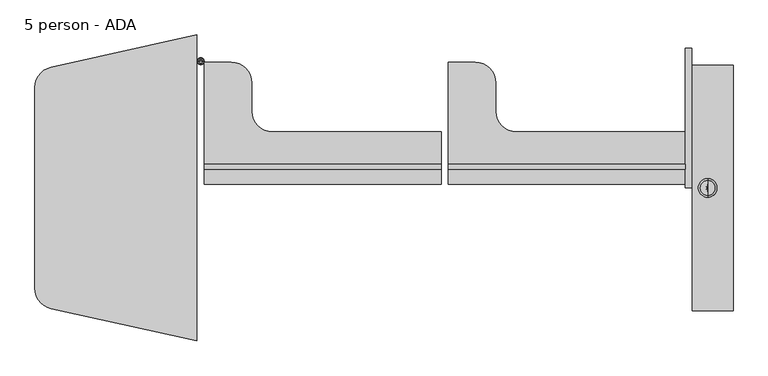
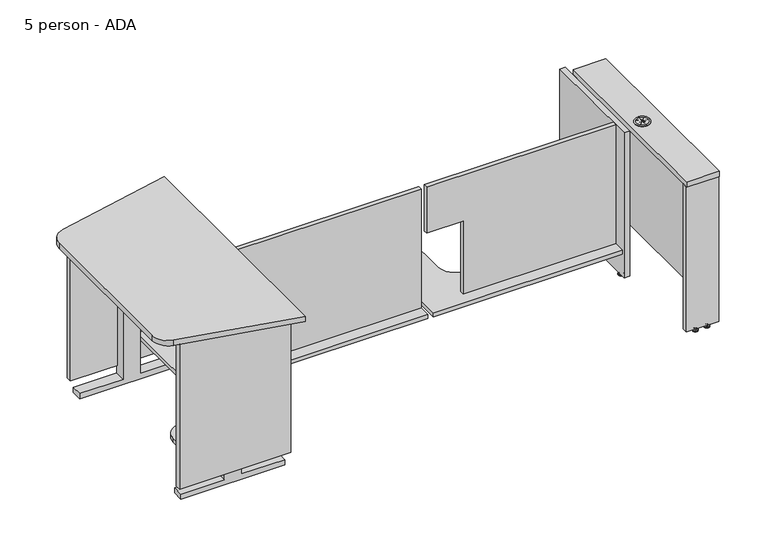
"""IFC4 building model written with IfcOpenShell, lengths in millimetres: furniture geometry, Nova Solutions - Collaboration Table - Keystone_4-5 person : 5 person - ADA."""

from ifc_helpers import new_model, si_unit, point, frame, frame_2d, origin, place, context, project, spatial, polyline, circle_curve, ellipse_curve, trimmed, segment, composite_curve, outline, extrude, source, transform, mapped, element, save
from ifc_brep_helpers import plane_surface, cylinder_surface, revolved_surface, advanced_brep


def furniture_5_person_ada_cc60ec20(model_context):
    return source(origin(), model_context, "Body", "SolidModel", [
        extrude(outline(polyline([(0.0, -947.038), (25.4, -947.038), (25.4, -1150.988), (671.5176566, -1150.988), (671.5176566, -1230.988), (25.4, -1230.988), (25.4, -1434.938), (0.0, -1434.938), (0.0, -947.038)])), frame((0.0, 385.9, 0.0), z_axis=(0.0, 1.0, 0.0), x_axis=(0.0, 0.0, 1.0)), (0.0, 0.0, 1.0), 50.8),
        extrude(outline(polyline([(0.0, -947.038), (25.4, -947.038), (25.4, -1150.988), (671.5176566, -1150.988), (671.5176566, -1230.988), (25.4, -1230.988), (25.4, -1434.938), (0.0, -1434.938), (0.0, -947.038)])), frame((0.0, -436.7, 0.0), z_axis=(0.0, 1.0, 0.0), x_axis=(0.0, 0.0, 1.0)), (0.0, 0.0, 1.0), 50.8),
        extrude(outline(polyline([(430.1, 787.1), (430.1, 196.3), (-259.1, 196.3), (-259.1, 558.2), (-430.1, 558.2), (-430.1, 787.1), (430.1, 787.1)])), frame((-1017.188, 0.0, 0.0), z_axis=(1.0, 0.0, 0.0), x_axis=(0.0, 1.0, 0.0)), (0.0, 0.0, 1.0), 19.2),
        extrude(outline(composite_curve([segment(polyline([(-942.688, 430.1), (-942.688, -430.1), (-1385.8505, -430.1), (-1385.8505, -290.3)]), True, "CONTINUOUS"), segment(trimmed(circle_curve(frame_2d((-1309.6505, -290.3)), 76.2), [point((-1385.8505, -290.3))], [point((-1309.6505, -214.1))], False, "CARTESIAN"), True, "CONTINUOUS"), segment(polyline([(-1309.6505, -214.1), (-1215.188, -214.1)]), True, "CONTINUOUS"), segment(trimmed(circle_curve(frame_2d((-1215.188, -137.9)), 76.2), [point((-1215.188, -214.1))], [point((-1138.988, -137.9))], True, "CARTESIAN"), True, "CONTINUOUS"), segment(polyline([(-1138.988, -137.9), (-1138.988, 430.1), (-942.688, 430.1)]), True, "CONTINUOUS")], self_intersect=False)), frame((0.0, 0.0, 177.1), z_axis=(0.0, 0.0, 1.0), x_axis=(1.0, 0.0, 0.0)), (0.0, 0.0, 1.0), 19.2),
        extrude(outline(polyline([(-929.988, 455.8), (-929.988, 430.1), (-1451.988, 430.1), (-1451.988, 455.8), (-929.988, 455.8)])), frame((0.0, 0.0, 66.4), z_axis=(0.0, 0.0, 1.0), x_axis=(1.0, 0.0, 0.0)), (0.0, 0.0, 1.0), 720.7),
        extrude(outline(polyline([(-929.988, -455.8), (-1451.988, -455.8), (-1451.988, -430.1), (-929.988, -430.1), (-929.988, -455.8)])), frame((0.0, 0.0, 66.4), z_axis=(0.0, 0.0, 1.0), x_axis=(1.0, 0.0, 0.0)), (0.0, 0.0, 1.0), 720.7),
        extrude(outline(composite_curve([segment(polyline([(-929.988, 572.7129765), (-929.988, -572.687814), (-1476.0905031, -451.5115625)]), True, "CONTINUOUS"), segment(trimmed(circle_curve(frame_2d((-1459.4104516, -376.3399197)), 77.0), [point((-1476.0905031, -451.5115625))], [point((-1536.4104516, -376.3415173))], False, "CARTESIAN"), True, "CONTINUOUS"), segment(polyline([(-1536.4104516, -376.3415173), (-1536.4260684, 376.3600213)]), True, "CONTINUOUS"), segment(trimmed(circle_curve(frame_2d((-1459.4260685, 376.3616189)), 77.0), [point((-1536.4260684, 376.3600213))], [point((-1476.1061197, 451.5332617))], False, "CARTESIAN"), True, "CONTINUOUS"), segment(polyline([(-1476.1061197, 451.5332617), (-929.988, 572.7129765)]), True, "CONTINUOUS")], self_intersect=False)), frame((0.0, 0.0, 787.1), z_axis=(0.0, 0.0, 1.0), x_axis=(1.0, 0.0, 0.0)), (0.0, 0.0, 1.0), 25.7),
        advanced_brep(
        [(981.65, -34.925, 762.0), (981.65, 34.925, 762.0), (981.65, 24.6435157, 762.0), (980.503542, 2.7677944, 762.0), (964.2244029, 17.4255971, 762.0), (978.8822056, 1.146458, 762.0), (957.0064843, 0.0, 762.0), (978.8822056, -1.146458, 762.0), (964.2244029, -17.4255971, 762.0), (980.503542, -2.7677944, 762.0), (981.65, -24.6435157, 762.0), (982.796458, -2.7677944, 762.0), (999.0755971, -17.4255971, 762.0), (984.4177944, -1.146458, 762.0), (1006.2935157, 0.0, 762.0), (984.4177944, 1.146458, 762.0), (999.0755971, 17.4255971, 762.0), (982.796458, 2.7677944, 762.0), (981.65, -34.925, 763.3787817), (981.65, 34.925, 763.3787817), (981.65, -28.7119174, 765.175), (981.65, 28.7119174, 765.175), (981.65, -24.6435157, 765.175), (980.503542, -2.7677944, 765.175), (964.2244029, -17.4255971, 765.175), (978.8822056, -1.146458, 765.175), (957.0064843, 0.0, 765.175), (978.8822056, 1.146458, 765.175), (964.2244029, 17.4255971, 765.175), (980.503542, 2.7677944, 765.175), (981.65, 24.6435157, 765.175), (982.796458, 2.7677944, 765.175), (999.0755971, 17.4255971, 765.175), (984.4177944, 1.146458, 765.175), (1006.2935157, 0.0, 765.175), (984.4177944, -1.146458, 765.175), (999.0755971, -17.4255971, 765.175), (982.796458, -2.7677944, 765.175)],
        [
            (0, 1, circle_curve(frame((981.65, 0.0, 762.0), z_axis=(0.0, 0.0, -1.0), x_axis=(0.0, 1.0, 0.0)), 34.925)),
            (1, 2),
            (2, 3),
            (3, 4),
            (4, 5),
            (5, 6),
            (6, 7),
            (7, 8),
            (8, 9),
            (9, 10),
            (10, 0),
            (1, 0, circle_curve(frame((981.65, 0.0, 762.0), z_axis=(0.0, 0.0, -1.0), x_axis=(0.0, 1.0, 0.0)), 34.925)),
            (10, 11),
            (11, 12),
            (12, 13),
            (13, 14),
            (14, 15),
            (15, 16),
            (16, 17),
            (17, 2),
            (0, 18),
            (18, 19, circle_curve(frame((981.65, 0.0, 763.3787817), z_axis=(0.0, 0.0, -1.0), x_axis=(0.0, 1.0, 0.0)), 34.925)),
            (19, 1),
            (19, 18, circle_curve(frame((981.65, 0.0, 763.3787817), z_axis=(0.0, 0.0, -1.0), x_axis=(0.0, 1.0, 0.0)), 34.925)),
            (18, 20, circle_curve(frame((981.65, -31.558813, 763.3787817), z_axis=(-1.0, 0.0, 0.0), x_axis=(0.0, -1.0, 0.0)), 3.366187)),
            (20, 21, circle_curve(frame((981.65, 0.0, 765.175), z_axis=(0.0, 0.0, -1.0), x_axis=(0.0, 1.0, 0.0)), 28.7119174)),
            (21, 19, circle_curve(frame((981.65, 31.558813, 763.3787817), z_axis=(-1.0, 0.0, 0.0), x_axis=(0.0, 1.0, 0.0)), 3.366187)),
            (21, 20, circle_curve(frame((981.65, 0.0, 765.175), z_axis=(0.0, 0.0, -1.0), x_axis=(0.0, 1.0, 0.0)), 28.7119174)),
            (20, 22),
            (22, 23),
            (23, 24),
            (24, 25),
            (25, 26),
            (26, 27),
            (27, 28),
            (28, 29),
            (29, 30),
            (30, 21),
            (30, 31),
            (31, 32),
            (32, 33),
            (33, 34),
            (34, 35),
            (35, 36),
            (36, 37),
            (37, 22),
            (26, 6),
            (5, 27),
            (25, 7),
            (24, 8),
            (23, 9),
            (22, 10),
            (37, 11),
            (36, 12),
            (35, 13),
            (34, 14),
            (33, 15),
            (32, 16),
            (31, 17),
            (30, 2),
            (29, 3),
            (28, 4),
        ],
        [
            plane_surface(frame((981.65, 0.0, 762.0), z_axis=(0.0, 0.0, -1.0), x_axis=(0.0, 1.0, 0.0))),
            cylinder_surface(frame((981.65, 0.0, 850.9), z_axis=(0.0, 0.0, 1.0), x_axis=(0.0, 1.0, 0.0)), 34.925),
            revolved_surface(trimmed(ellipse_curve(frame((981.65, 31.558813, 763.3787817), z_axis=(1.0, 0.0, 0.0), x_axis=(0.0, 1.0, 0.0)), 3.366187, 3.366187), [point((981.65, 34.925, 763.3787817))], [point((981.65, 28.7119174, 765.175))], True, "CARTESIAN"), (981.65, 0.0, 850.9), (0.0, 0.0, 1.0)),
            plane_surface(frame((981.65, 0.0, 765.175), z_axis=(0.0, 0.0, 1.0), x_axis=(0.0, 1.0, 0.0))),
            plane_surface(frame((981.65, 1.2915119, 787.4), z_axis=(0.05233595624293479, -0.9986295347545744, 0.0), x_axis=(0.0, 0.0, -1.0))),
            plane_surface(frame((957.0064843, 0.0, 787.4), z_axis=(0.052335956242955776, 0.9986295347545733, 0.0), x_axis=(0.0, 0.0, -1.0))),
            plane_surface(frame((980.7367632, 0.9132368, 787.4), z_axis=(0.7431448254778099, -0.6691306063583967, 0.0), x_axis=(0.0, 0.0, -1.0))),
            plane_surface(frame((964.2244029, -17.4255971, 787.4), z_axis=(-0.6691306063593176, 0.7431448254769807, 0.0), x_axis=(0.0, 0.0, -1.0))),
            plane_surface(frame((980.3584881, 0.0, 787.4), z_axis=(0.9986295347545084, 0.05233595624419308, 0.0), x_axis=(0.0, 0.0, -1.0))),
            plane_surface(frame((981.65, -24.6435157, 787.4), z_axis=(-0.9986295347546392, 0.05233595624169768, 0.0), x_axis=(0.0, 0.0, -1.0))),
            plane_surface(frame((980.7367632, -0.9132368, 787.4), z_axis=(0.6691306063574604, 0.743144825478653, 0.0), x_axis=(0.0, 0.0, -1.0))),
            plane_surface(frame((999.0755971, -17.4255971, 787.4), z_axis=(-0.7431448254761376, -0.669130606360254, 0.0), x_axis=(0.0, 0.0, -1.0))),
            plane_surface(frame((981.65, -1.2915119, 787.4), z_axis=(-0.052335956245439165, 0.9986295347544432, 0.0), x_axis=(0.0, 0.0, -1.0))),
            plane_surface(frame((1006.2935157, 0.0, 787.4), z_axis=(-0.05233595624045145, -0.9986295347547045, 0.0), x_axis=(0.0, 0.0, -1.0))),
            plane_surface(frame((982.5632368, -0.9132368, 787.4), z_axis=(-0.7431448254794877, 0.6691306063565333, 0.0), x_axis=(0.0, 0.0, -1.0))),
            plane_surface(frame((999.0755971, 17.4255971, 787.4), z_axis=(0.669130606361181, -0.7431448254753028, 0.0), x_axis=(0.0, 0.0, -1.0))),
            plane_surface(frame((982.9415119, 0.0, 787.4), z_axis=(-0.9986295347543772, -0.05233595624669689, 0.0), x_axis=(0.0, 0.0, -1.0))),
            plane_surface(frame((981.65, 24.6435157, 787.4), z_axis=(0.9986295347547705, -0.05233595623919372, 0.0), x_axis=(0.0, 0.0, -1.0))),
            plane_surface(frame((982.5632368, 0.9132368, 787.4), z_axis=(-0.6691306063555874, -0.7431448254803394, 0.0), x_axis=(0.0, 0.0, -1.0))),
            plane_surface(frame((964.2244029, 17.4255971, 787.4), z_axis=(0.743144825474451, 0.669130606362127, 0.0), x_axis=(0.0, 0.0, -1.0))),
        ],
        [
            (0, [[1, 2, 3, 4, 5, 6, 7, 8, 9, 10, 11]]),
            (0, [[12, -11, 13, 14, 15, 16, 17, 18, 19, 20, -2]]),
            (1, [[-1, 21, 22, 23]]),
            (1, [[-12, -23, 24, -21]]),
            (2, [[-22, 25, 26, 27]]),
            (2, [[-24, -27, 28, -25]]),
            (3, [[-26, 29, 30, 31, 32, 33, 34, 35, 36, 37, 38]]),
            (3, [[-28, -38, 39, 40, 41, 42, 43, 44, 45, 46, -29]]),
            (4, [[47, -6, 48, -34]]),
            (5, [[-47, -33, 49, -7]]),
            (6, [[50, -8, -49, -32]]),
            (7, [[-50, -31, 51, -9]]),
            (8, [[52, -10, -51, -30]]),
            (9, [[-52, -46, 53, -13]]),
            (10, [[54, -14, -53, -45]]),
            (11, [[-54, -44, 55, -15]]),
            (12, [[56, -16, -55, -43]]),
            (13, [[-56, -42, 57, -17]]),
            (14, [[58, -18, -57, -41]]),
            (15, [[-58, -40, 59, -19]]),
            (16, [[60, -20, -59, -39]]),
            (17, [[-60, -37, 61, -3]]),
            (18, [[62, -4, -61, -36]]),
            (19, [[-62, -35, -48, -5]]),
        ],
    ),
        advanced_brep(
        [(1027.6359375, 451.0276506, 11.1125), (1027.6359375, 437.6723494, 11.1125), (1027.6359375, 444.35, 11.1125), (1027.6359375, 451.0276506, 9.525), (1027.6359375, 437.6723494, 9.525), (1027.6359375, 456.2355135, 4.7748687), (1027.6359375, 432.4644865, 4.7748687), (1027.6359375, 457.0966506, 3.989419), (1027.6359375, 431.6033494, 3.989419), (1027.6359375, 457.0966506, 3.175), (1027.6359375, 431.6033494, 3.175), (1027.6359375, 456.2459119, 0.0), (1027.6359375, 432.4540881, 0.0), (1027.6359375, 444.35, 0.0)],
        [
            (0, 1, circle_curve(frame((1027.6359375, 444.35, 11.1125), z_axis=(0.0, 0.0, 1.0), x_axis=(0.0, -1.0, 0.0)), 6.6776506)),
            (1, 2),
            (2, 0),
            (1, 0, circle_curve(frame((1027.6359375, 444.35, 11.1125), z_axis=(0.0, 0.0, 1.0), x_axis=(0.0, -1.0, 0.0)), 6.6776506)),
            (3, 4, circle_curve(frame((1027.6359375, 444.35, 9.525), z_axis=(0.0, 0.0, 1.0), x_axis=(0.0, -1.0, 0.0)), 6.6776506)),
            (4, 1),
            (0, 3),
            (4, 3, circle_curve(frame((1027.6359375, 444.35, 9.525), z_axis=(0.0, 0.0, 1.0), x_axis=(0.0, -1.0, 0.0)), 6.6776506)),
            (5, 6, circle_curve(frame((1027.6359375, 444.35, 4.7748687), z_axis=(0.0, 0.0, 1.0), x_axis=(0.0, -1.0, 0.0)), 11.8855135)),
            (6, 4, circle_curve(frame((1027.6359375, 431.4179373, 11.1521822), z_axis=(1.0, 0.0, 0.0), x_axis=(0.0, 1.0, 0.0)), 6.462615)),
            (3, 5, circle_curve(frame((1027.6359375, 457.2820627, 11.1521822), z_axis=(1.0, 0.0, 0.0), x_axis=(0.0, -1.0, 0.0)), 6.462615)),
            (6, 5, circle_curve(frame((1027.6359375, 444.35, 4.7748687), z_axis=(0.0, 0.0, 1.0), x_axis=(0.0, -1.0, 0.0)), 11.8855135)),
            (7, 8, circle_curve(frame((1027.6359375, 444.35, 3.989419), z_axis=(0.0, 0.0, 1.0), x_axis=(0.0, -1.0, 0.0)), 12.7466506)),
            (8, 6, circle_curve(frame((1027.6359375, 432.6375368, 3.7203591), z_axis=(-1.0, 0.0, 0.0), x_axis=(0.0, 1.0, 0.0)), 1.0686145)),
            (5, 7, circle_curve(frame((1027.6359375, 456.0624632, 3.7203591), z_axis=(-1.0, 0.0, 0.0), x_axis=(0.0, -1.0, 0.0)), 1.0686145)),
            (8, 7, circle_curve(frame((1027.6359375, 444.35, 3.989419), z_axis=(0.0, 0.0, 1.0), x_axis=(0.0, -1.0, 0.0)), 12.7466506)),
            (9, 10, circle_curve(frame((1027.6359375, 444.35, 3.175), z_axis=(0.0, 0.0, 1.0), x_axis=(0.0, -1.0, 0.0)), 12.7466506)),
            (10, 8),
            (7, 9),
            (10, 9, circle_curve(frame((1027.6359375, 444.35, 3.175), z_axis=(0.0, 0.0, 1.0), x_axis=(0.0, -1.0, 0.0)), 12.7466506)),
            (11, 12, circle_curve(frame((1027.6359375, 444.35, 0.0), z_axis=(0.0, 0.0, 1.0), x_axis=(0.0, -1.0, 0.0)), 11.8959119)),
            (12, 10),
            (9, 11),
            (12, 11, circle_curve(frame((1027.6359375, 444.35, 0.0), z_axis=(0.0, 0.0, 1.0), x_axis=(0.0, -1.0, 0.0)), 11.8959119)),
            (13, 12),
            (11, 13),
        ],
        [
            plane_surface(frame((1027.6359375, 444.35, 11.1125), z_axis=(0.0, 0.0, 1.0), x_axis=(0.0, -1.0, 0.0))),
            cylinder_surface(frame((1027.6359375, 444.35, 43.2095994), z_axis=(0.0, 0.0, -1.0), x_axis=(0.0, -1.0, 0.0)), 6.6776506),
            revolved_surface(trimmed(ellipse_curve(frame((1027.6359375, 431.4179373, 11.1521822), z_axis=(-1.0, 0.0, 0.0), x_axis=(0.0, 1.0, 0.0)), 6.462615, 6.462615), [point((1027.6359375, 437.6723494, 9.525))], [point((1027.6359375, 432.4644865, 4.7748687))], True, "CARTESIAN"), (1027.6359375, 444.35, 43.2095994), (0.0, 0.0, -1.0)),
            revolved_surface(trimmed(ellipse_curve(frame((1027.6359375, 432.6375368, 3.7203591), z_axis=(1.0, 0.0, 0.0), x_axis=(0.0, 1.0, 0.0)), 1.0686145, 1.0686145), [point((1027.6359375, 432.4644865, 4.7748687))], [point((1027.6359375, 431.6033494, 3.989419))], True, "CARTESIAN"), (1027.6359375, 444.35, 43.2095994), (0.0, 0.0, -1.0)),
            cylinder_surface(frame((1027.6359375, 444.35, 43.2095994), z_axis=(0.0, 0.0, -1.0), x_axis=(0.0, -1.0, 0.0)), 12.7466506),
            revolved_surface(polyline([(1027.6359375, 431.6033494, 3.175), (1027.6359375, 432.4540881, 0.0)]), (1027.6359375, 444.35, 43.2095994), (0.0, 0.0, -1.0)),
            plane_surface(frame((1027.6359375, 444.35, 0.0), z_axis=(0.0, 0.0, -1.0), x_axis=(0.0, -1.0, 0.0))),
        ],
        [
            (0, [[1, 2, 3]]),
            (0, [[4, -3, -2]]),
            (1, [[5, 6, -1, 7]]),
            (1, [[8, -7, -4, -6]]),
            (2, [[9, 10, -5, 11]]),
            (2, [[12, -11, -8, -10]]),
            (3, [[13, 14, -9, 15]]),
            (3, [[16, -15, -12, -14]]),
            (4, [[17, 18, -13, 19]]),
            (4, [[20, -19, -16, -18]]),
            (5, [[21, 22, -17, 23]]),
            (5, [[24, -23, -20, -22]]),
            (6, [[25, -21, 26]]),
            (6, [[-26, -24, -25]]),
        ],
    ),
        advanced_brep(
        [(973.2640625, 451.0276506, 11.1125), (973.2640625, 437.6723494, 11.1125), (973.2640625, 444.35, 11.1125), (973.2640625, 451.0276506, 9.525), (973.2640625, 437.6723494, 9.525), (973.2640625, 456.2355135, 4.7748687), (973.2640625, 432.4644865, 4.7748687), (973.2640625, 457.0966506, 3.989419), (973.2640625, 431.6033494, 3.989419), (973.2640625, 457.0966506, 3.175), (973.2640625, 431.6033494, 3.175), (973.2640625, 456.2459119, 0.0), (973.2640625, 432.4540881, 0.0), (973.2640625, 444.35, 0.0)],
        [
            (0, 1, circle_curve(frame((973.2640625, 444.35, 11.1125), z_axis=(0.0, 0.0, 1.0), x_axis=(0.0, -1.0, 0.0)), 6.6776506)),
            (1, 2),
            (2, 0),
            (1, 0, circle_curve(frame((973.2640625, 444.35, 11.1125), z_axis=(0.0, 0.0, 1.0), x_axis=(0.0, -1.0, 0.0)), 6.6776506)),
            (3, 4, circle_curve(frame((973.2640625, 444.35, 9.525), z_axis=(0.0, 0.0, 1.0), x_axis=(0.0, -1.0, 0.0)), 6.6776506)),
            (4, 1),
            (0, 3),
            (4, 3, circle_curve(frame((973.2640625, 444.35, 9.525), z_axis=(0.0, 0.0, 1.0), x_axis=(0.0, -1.0, 0.0)), 6.6776506)),
            (5, 6, circle_curve(frame((973.2640625, 444.35, 4.7748687), z_axis=(0.0, 0.0, 1.0), x_axis=(0.0, -1.0, 0.0)), 11.8855135)),
            (6, 4, circle_curve(frame((973.2640625, 431.4179373, 11.1521822), z_axis=(1.0, 0.0, 0.0), x_axis=(0.0, 1.0, 0.0)), 6.462615)),
            (3, 5, circle_curve(frame((973.2640625, 457.2820627, 11.1521822), z_axis=(1.0, 0.0, 0.0), x_axis=(0.0, -1.0, 0.0)), 6.462615)),
            (6, 5, circle_curve(frame((973.2640625, 444.35, 4.7748687), z_axis=(0.0, 0.0, 1.0), x_axis=(0.0, -1.0, 0.0)), 11.8855135)),
            (7, 8, circle_curve(frame((973.2640625, 444.35, 3.989419), z_axis=(0.0, 0.0, 1.0), x_axis=(0.0, -1.0, 0.0)), 12.7466506)),
            (8, 6, circle_curve(frame((973.2640625, 432.6375368, 3.7203591), z_axis=(-1.0, 0.0, 0.0), x_axis=(0.0, 1.0, 0.0)), 1.0686145)),
            (5, 7, circle_curve(frame((973.2640625, 456.0624632, 3.7203591), z_axis=(-1.0, 0.0, 0.0), x_axis=(0.0, -1.0, 0.0)), 1.0686145)),
            (8, 7, circle_curve(frame((973.2640625, 444.35, 3.989419), z_axis=(0.0, 0.0, 1.0), x_axis=(0.0, -1.0, 0.0)), 12.7466506)),
            (9, 10, circle_curve(frame((973.2640625, 444.35, 3.175), z_axis=(0.0, 0.0, 1.0), x_axis=(0.0, -1.0, 0.0)), 12.7466506)),
            (10, 8),
            (7, 9),
            (10, 9, circle_curve(frame((973.2640625, 444.35, 3.175), z_axis=(0.0, 0.0, 1.0), x_axis=(0.0, -1.0, 0.0)), 12.7466506)),
            (11, 12, circle_curve(frame((973.2640625, 444.35, 0.0), z_axis=(0.0, 0.0, 1.0), x_axis=(0.0, -1.0, 0.0)), 11.8959119)),
            (12, 10),
            (9, 11),
            (12, 11, circle_curve(frame((973.2640625, 444.35, 0.0), z_axis=(0.0, 0.0, 1.0), x_axis=(0.0, -1.0, 0.0)), 11.8959119)),
            (13, 12),
            (11, 13),
        ],
        [
            plane_surface(frame((973.2640625, 444.35, 11.1125), z_axis=(0.0, 0.0, 1.0), x_axis=(0.0, -1.0, 0.0))),
            cylinder_surface(frame((973.2640625, 444.35, 43.2095994), z_axis=(0.0, 0.0, -1.0), x_axis=(0.0, -1.0, 0.0)), 6.6776506),
            revolved_surface(trimmed(ellipse_curve(frame((973.2640625, 431.4179373, 11.1521822), z_axis=(-1.0, 0.0, 0.0), x_axis=(0.0, 1.0, 0.0)), 6.462615, 6.462615), [point((973.2640625, 437.6723494, 9.525))], [point((973.2640625, 432.4644865, 4.7748687))], True, "CARTESIAN"), (973.2640625, 444.35, 43.2095994), (0.0, 0.0, -1.0)),
            revolved_surface(trimmed(ellipse_curve(frame((973.2640625, 432.6375368, 3.7203591), z_axis=(1.0, 0.0, 0.0), x_axis=(0.0, 1.0, 0.0)), 1.0686145, 1.0686145), [point((973.2640625, 432.4644865, 4.7748687))], [point((973.2640625, 431.6033494, 3.989419))], True, "CARTESIAN"), (973.2640625, 444.35, 43.2095994), (0.0, 0.0, -1.0)),
            cylinder_surface(frame((973.2640625, 444.35, 43.2095994), z_axis=(0.0, 0.0, -1.0), x_axis=(0.0, -1.0, 0.0)), 12.7466506),
            revolved_surface(polyline([(973.2640625, 431.6033494, 3.175), (973.2640625, 432.4540881, 0.0)]), (973.2640625, 444.35, 43.2095994), (0.0, 0.0, -1.0)),
            plane_surface(frame((973.2640625, 444.35, 0.0), z_axis=(0.0, 0.0, -1.0), x_axis=(0.0, -1.0, 0.0))),
        ],
        [
            (0, [[1, 2, 3]]),
            (0, [[4, -3, -2]]),
            (1, [[5, 6, -1, 7]]),
            (1, [[8, -7, -4, -6]]),
            (2, [[9, 10, -5, 11]]),
            (2, [[12, -11, -8, -10]]),
            (3, [[13, 14, -9, 15]]),
            (3, [[16, -15, -12, -14]]),
            (4, [[17, 18, -13, 19]]),
            (4, [[20, -19, -16, -18]]),
            (5, [[21, 22, -17, 23]]),
            (5, [[24, -23, -20, -22]]),
            (6, [[25, -21, 26]]),
            (6, [[-26, -24, -25]]),
        ],
    ),
        extrude(outline(polyline([(924.25, 457.2), (1076.65, 457.2), (1076.65, 431.5), (924.25, 431.5), (924.25, 457.2)])), frame((0.0, 0.0, 15.6), z_axis=(0.0, 0.0, 1.0), x_axis=(1.0, 0.0, 0.0)), (0.0, 0.0, 1.0), 720.7),
        advanced_brep(
        [(1027.6359375, -451.0276506, 11.1125), (1027.6359375, -444.35, 11.1125), (1027.6359375, -437.6723494, 11.1125), (1027.6359375, -451.0276506, 9.525), (1027.6359375, -437.6723494, 9.525), (1027.6359375, -456.2355135, 4.7748687), (1027.6359375, -432.4644865, 4.7748687), (1027.6359375, -457.0966506, 3.989419), (1027.6359375, -431.6033494, 3.989419), (1027.6359375, -457.0966506, 3.175), (1027.6359375, -431.6033494, 3.175), (1027.6359375, -456.2459119, 0.0), (1027.6359375, -432.4540881, 0.0), (1027.6359375, -444.35, 0.0)],
        [
            (0, 1),
            (1, 2),
            (2, 0, circle_curve(frame((1027.6359375, -444.35, 11.1125), z_axis=(0.0, 0.0, 1.0), x_axis=(0.0, 1.0, 0.0)), 6.6776506)),
            (0, 2, circle_curve(frame((1027.6359375, -444.35, 11.1125), z_axis=(0.0, 0.0, 1.0), x_axis=(0.0, 1.0, 0.0)), 6.6776506)),
            (3, 0),
            (2, 4),
            (4, 3, circle_curve(frame((1027.6359375, -444.35, 9.525), z_axis=(0.0, 0.0, 1.0), x_axis=(0.0, 1.0, 0.0)), 6.6776506)),
            (3, 4, circle_curve(frame((1027.6359375, -444.35, 9.525), z_axis=(0.0, 0.0, 1.0), x_axis=(0.0, 1.0, 0.0)), 6.6776506)),
            (5, 3, circle_curve(frame((1027.6359375, -457.2820627, 11.1521822), z_axis=(1.0, 0.0, 0.0), x_axis=(0.0, 1.0, 0.0)), 6.462615)),
            (4, 6, circle_curve(frame((1027.6359375, -431.4179373, 11.1521822), z_axis=(1.0, 0.0, 0.0), x_axis=(0.0, -1.0, 0.0)), 6.462615)),
            (6, 5, circle_curve(frame((1027.6359375, -444.35, 4.7748687), z_axis=(0.0, 0.0, 1.0), x_axis=(0.0, 1.0, 0.0)), 11.8855135)),
            (5, 6, circle_curve(frame((1027.6359375, -444.35, 4.7748687), z_axis=(0.0, 0.0, 1.0), x_axis=(0.0, 1.0, 0.0)), 11.8855135)),
            (7, 5, circle_curve(frame((1027.6359375, -456.0624632, 3.7203591), z_axis=(-1.0, 0.0, 0.0), x_axis=(0.0, 1.0, 0.0)), 1.0686145)),
            (6, 8, circle_curve(frame((1027.6359375, -432.6375368, 3.7203591), z_axis=(-1.0, 0.0, 0.0), x_axis=(0.0, -1.0, 0.0)), 1.0686145)),
            (8, 7, circle_curve(frame((1027.6359375, -444.35, 3.989419), z_axis=(0.0, 0.0, 1.0), x_axis=(0.0, 1.0, 0.0)), 12.7466506)),
            (7, 8, circle_curve(frame((1027.6359375, -444.35, 3.989419), z_axis=(0.0, 0.0, 1.0), x_axis=(0.0, 1.0, 0.0)), 12.7466506)),
            (9, 7),
            (8, 10),
            (10, 9, circle_curve(frame((1027.6359375, -444.35, 3.175), z_axis=(0.0, 0.0, 1.0), x_axis=(0.0, 1.0, 0.0)), 12.7466506)),
            (9, 10, circle_curve(frame((1027.6359375, -444.35, 3.175), z_axis=(0.0, 0.0, 1.0), x_axis=(0.0, 1.0, 0.0)), 12.7466506)),
            (11, 9),
            (10, 12),
            (12, 11, circle_curve(frame((1027.6359375, -444.35, 0.0), z_axis=(0.0, 0.0, 1.0), x_axis=(0.0, 1.0, 0.0)), 11.8959119)),
            (11, 12, circle_curve(frame((1027.6359375, -444.35, 0.0), z_axis=(0.0, 0.0, 1.0), x_axis=(0.0, 1.0, 0.0)), 11.8959119)),
            (13, 11),
            (12, 13),
        ],
        [
            plane_surface(frame((1027.6359375, -444.35, 11.1125), z_axis=(0.0, 0.0, 1.0), x_axis=(0.0, 1.0, 0.0))),
            cylinder_surface(frame((1027.6359375, -444.35, 43.2095994), z_axis=(0.0, 0.0, -1.0), x_axis=(0.0, 1.0, 0.0)), 6.6776506),
            revolved_surface(trimmed(ellipse_curve(frame((1027.6359375, -431.4179373, 11.1521822), z_axis=(1.0, 0.0, 0.0), x_axis=(0.0, -1.0, 0.0)), 6.462615, 6.462615), [point((1027.6359375, -437.6723494, 9.525))], [point((1027.6359375, -432.4644865, 4.7748687))], True, "CARTESIAN"), (1027.6359375, -444.35, 43.2095994), (0.0, 0.0, -1.0)),
            revolved_surface(trimmed(ellipse_curve(frame((1027.6359375, -432.6375368, 3.7203591), z_axis=(-1.0, 0.0, 0.0), x_axis=(0.0, -1.0, 0.0)), 1.0686145, 1.0686145), [point((1027.6359375, -432.4644865, 4.7748687))], [point((1027.6359375, -431.6033494, 3.989419))], True, "CARTESIAN"), (1027.6359375, -444.35, 43.2095994), (0.0, 0.0, -1.0)),
            cylinder_surface(frame((1027.6359375, -444.35, 43.2095994), z_axis=(0.0, 0.0, -1.0), x_axis=(0.0, 1.0, 0.0)), 12.7466506),
            revolved_surface(polyline([(1027.6359375, -431.6033494, 3.175), (1027.6359375, -432.4540881, 0.0)]), (1027.6359375, -444.35, 43.2095994), (0.0, 0.0, -1.0)),
            plane_surface(frame((1027.6359375, -444.35, 0.0), z_axis=(0.0, 0.0, -1.0), x_axis=(0.0, 1.0, 0.0))),
        ],
        [
            (0, [[1, 2, 3]]),
            (0, [[-2, -1, 4]]),
            (1, [[5, -3, 6, 7]]),
            (1, [[-6, -4, -5, 8]]),
            (2, [[9, -7, 10, 11]]),
            (2, [[-10, -8, -9, 12]]),
            (3, [[13, -11, 14, 15]]),
            (3, [[-14, -12, -13, 16]]),
            (4, [[17, -15, 18, 19]]),
            (4, [[-18, -16, -17, 20]]),
            (5, [[21, -19, 22, 23]]),
            (5, [[-22, -20, -21, 24]]),
            (6, [[25, -23, 26]]),
            (6, [[-26, -24, -25]]),
        ],
    ),
        advanced_brep(
        [(973.2640625, -451.0276506, 11.1125), (973.2640625, -444.35, 11.1125), (973.2640625, -437.6723494, 11.1125), (973.2640625, -451.0276506, 9.525), (973.2640625, -437.6723494, 9.525), (973.2640625, -456.2355135, 4.7748687), (973.2640625, -432.4644865, 4.7748687), (973.2640625, -457.0966506, 3.989419), (973.2640625, -431.6033494, 3.989419), (973.2640625, -457.0966506, 3.175), (973.2640625, -431.6033494, 3.175), (973.2640625, -456.2459119, 0.0), (973.2640625, -432.4540881, 0.0), (973.2640625, -444.35, 0.0)],
        [
            (0, 1),
            (1, 2),
            (2, 0, circle_curve(frame((973.2640625, -444.35, 11.1125), z_axis=(0.0, 0.0, 1.0), x_axis=(0.0, 1.0, 0.0)), 6.6776506)),
            (0, 2, circle_curve(frame((973.2640625, -444.35, 11.1125), z_axis=(0.0, 0.0, 1.0), x_axis=(0.0, 1.0, 0.0)), 6.6776506)),
            (3, 0),
            (2, 4),
            (4, 3, circle_curve(frame((973.2640625, -444.35, 9.525), z_axis=(0.0, 0.0, 1.0), x_axis=(0.0, 1.0, 0.0)), 6.6776506)),
            (3, 4, circle_curve(frame((973.2640625, -444.35, 9.525), z_axis=(0.0, 0.0, 1.0), x_axis=(0.0, 1.0, 0.0)), 6.6776506)),
            (5, 3, circle_curve(frame((973.2640625, -457.2820627, 11.1521822), z_axis=(1.0, 0.0, 0.0), x_axis=(0.0, 1.0, 0.0)), 6.462615)),
            (4, 6, circle_curve(frame((973.2640625, -431.4179373, 11.1521822), z_axis=(1.0, 0.0, 0.0), x_axis=(0.0, -1.0, 0.0)), 6.462615)),
            (6, 5, circle_curve(frame((973.2640625, -444.35, 4.7748687), z_axis=(0.0, 0.0, 1.0), x_axis=(0.0, 1.0, 0.0)), 11.8855135)),
            (5, 6, circle_curve(frame((973.2640625, -444.35, 4.7748687), z_axis=(0.0, 0.0, 1.0), x_axis=(0.0, 1.0, 0.0)), 11.8855135)),
            (7, 5, circle_curve(frame((973.2640625, -456.0624632, 3.7203591), z_axis=(-1.0, 0.0, 0.0), x_axis=(0.0, 1.0, 0.0)), 1.0686145)),
            (6, 8, circle_curve(frame((973.2640625, -432.6375368, 3.7203591), z_axis=(-1.0, 0.0, 0.0), x_axis=(0.0, -1.0, 0.0)), 1.0686145)),
            (8, 7, circle_curve(frame((973.2640625, -444.35, 3.989419), z_axis=(0.0, 0.0, 1.0), x_axis=(0.0, 1.0, 0.0)), 12.7466506)),
            (7, 8, circle_curve(frame((973.2640625, -444.35, 3.989419), z_axis=(0.0, 0.0, 1.0), x_axis=(0.0, 1.0, 0.0)), 12.7466506)),
            (9, 7),
            (8, 10),
            (10, 9, circle_curve(frame((973.2640625, -444.35, 3.175), z_axis=(0.0, 0.0, 1.0), x_axis=(0.0, 1.0, 0.0)), 12.7466506)),
            (9, 10, circle_curve(frame((973.2640625, -444.35, 3.175), z_axis=(0.0, 0.0, 1.0), x_axis=(0.0, 1.0, 0.0)), 12.7466506)),
            (11, 9),
            (10, 12),
            (12, 11, circle_curve(frame((973.2640625, -444.35, 0.0), z_axis=(0.0, 0.0, 1.0), x_axis=(0.0, 1.0, 0.0)), 11.8959119)),
            (11, 12, circle_curve(frame((973.2640625, -444.35, 0.0), z_axis=(0.0, 0.0, 1.0), x_axis=(0.0, 1.0, 0.0)), 11.8959119)),
            (13, 11),
            (12, 13),
        ],
        [
            plane_surface(frame((973.2640625, -444.35, 11.1125), z_axis=(0.0, 0.0, 1.0), x_axis=(0.0, 1.0, 0.0))),
            cylinder_surface(frame((973.2640625, -444.35, 43.2095994), z_axis=(0.0, 0.0, -1.0), x_axis=(0.0, 1.0, 0.0)), 6.6776506),
            revolved_surface(trimmed(ellipse_curve(frame((973.2640625, -431.4179373, 11.1521822), z_axis=(1.0, 0.0, 0.0), x_axis=(0.0, -1.0, 0.0)), 6.462615, 6.462615), [point((973.2640625, -437.6723494, 9.525))], [point((973.2640625, -432.4644865, 4.7748687))], True, "CARTESIAN"), (973.2640625, -444.35, 43.2095994), (0.0, 0.0, -1.0)),
            revolved_surface(trimmed(ellipse_curve(frame((973.2640625, -432.6375368, 3.7203591), z_axis=(-1.0, 0.0, 0.0), x_axis=(0.0, -1.0, 0.0)), 1.0686145, 1.0686145), [point((973.2640625, -432.4644865, 4.7748687))], [point((973.2640625, -431.6033494, 3.989419))], True, "CARTESIAN"), (973.2640625, -444.35, 43.2095994), (0.0, 0.0, -1.0)),
            cylinder_surface(frame((973.2640625, -444.35, 43.2095994), z_axis=(0.0, 0.0, -1.0), x_axis=(0.0, 1.0, 0.0)), 12.7466506),
            revolved_surface(polyline([(973.2640625, -431.6033494, 3.175), (973.2640625, -432.4540881, 0.0)]), (973.2640625, -444.35, 43.2095994), (0.0, 0.0, -1.0)),
            plane_surface(frame((973.2640625, -444.35, 0.0), z_axis=(0.0, 0.0, -1.0), x_axis=(0.0, 1.0, 0.0))),
        ],
        [
            (0, [[1, 2, 3]]),
            (0, [[-2, -1, 4]]),
            (1, [[5, -3, 6, 7]]),
            (1, [[-6, -4, -5, 8]]),
            (2, [[9, -7, 10, 11]]),
            (2, [[-10, -8, -9, 12]]),
            (3, [[13, -11, 14, 15]]),
            (3, [[-14, -12, -13, 16]]),
            (4, [[17, -15, 18, 19]]),
            (4, [[-18, -16, -17, 20]]),
            (5, [[21, -19, 22, 23]]),
            (5, [[-22, -20, -21, 24]]),
            (6, [[25, -23, 26]]),
            (6, [[-26, -24, -25]]),
        ],
    ),
        extrude(outline(polyline([(924.25, -457.2), (924.25, -431.5), (1076.65, -431.5), (1076.65, -457.2), (924.25, -457.2)])), frame((0.0, 0.0, 15.6), z_axis=(0.0, 0.0, 1.0), x_axis=(1.0, 0.0, 0.0)), (0.0, 0.0, 1.0), 720.7),
        extrude(outline(polyline([(1076.07, -431.0), (1057.02, -431.0), (1057.02, 431.0), (1076.07, 431.0), (1076.07, -431.0)])), frame((0.0, 0.0, 85.615), z_axis=(0.0, 0.0, 1.0), x_axis=(1.0, 0.0, 0.0)), (0.0, 0.0, 1.0), 625.285),
        extrude(outline(polyline([(1076.65, 460.1), (1076.65, -460.1), (924.25, -460.1), (924.25, 460.1), (1076.65, 460.1)])), frame((0.0, 0.0, 736.3), z_axis=(0.0, 0.0, 1.0), x_axis=(1.0, 0.0, 0.0)), (0.0, 0.0, 1.0), 25.7),
        extrude(outline(polyline([(145.5, 897.15), (736.3, 897.15), (736.3, 10.05), (507.4, 10.05), (507.4, 181.05), (145.5, 181.05), (145.5, 897.15)])), frame((0.0, 69.345, 0.0), z_axis=(0.0, 1.0, 0.0), x_axis=(0.0, 0.0, 1.0)), (0.0, 0.0, 1.0), 19.2),
        extrude(outline(composite_curve([segment(polyline([(897.15, 14.045), (10.05, 14.045), (10.05, 469.9075), (111.65, 469.9075)]), True, "CONTINUOUS"), segment(trimmed(circle_curve(frame_2d((111.65, 393.7075)), 76.2), [point((111.65, 469.9075))], [point((187.85, 393.7075))], False, "CARTESIAN"), True, "CONTINUOUS"), segment(polyline([(187.85, 393.7075), (187.85, 286.545)]), True, "CONTINUOUS"), segment(trimmed(circle_curve(frame_2d((264.05, 286.545)), 76.2), [point((187.85, 286.545))], [point((264.05, 210.345))], True, "CARTESIAN"), True, "CONTINUOUS"), segment(polyline([(264.05, 210.345), (897.15, 210.345), (897.15, 14.045)]), True, "CONTINUOUS")], self_intersect=False)), frame((0.0, 0.0, 126.3), z_axis=(0.0, 0.0, 1.0), x_axis=(1.0, 0.0, 0.0)), (0.0, 0.0, 1.0), 19.2),
        advanced_brep(
        [(916.6776506, 474.3309375, 11.1125), (910.0, 474.3309375, 11.1125), (903.3223494, 474.3309375, 11.1125), (916.6776506, 474.3309375, 9.525), (903.3223494, 474.3309375, 9.525), (921.8855135, 474.3309375, 4.7748687), (898.1144865, 474.3309375, 4.7748687), (922.7466506, 474.3309375, 3.989419), (897.2533494, 474.3309375, 3.989419), (922.7466506, 474.3309375, 3.175), (897.2533494, 474.3309375, 3.175), (921.8959119, 474.3309375, 0.0), (898.1040881, 474.3309375, 0.0), (910.0, 474.3309375, 0.0)],
        [
            (0, 1),
            (1, 2),
            (2, 0, circle_curve(frame((910.0, 474.3309375, 11.1125), z_axis=(0.0, 0.0, 1.0), x_axis=(-1.0, 0.0, 0.0)), 6.6776506)),
            (0, 2, circle_curve(frame((910.0, 474.3309375, 11.1125), z_axis=(0.0, 0.0, 1.0), x_axis=(-1.0, 0.0, 0.0)), 6.6776506)),
            (3, 0),
            (2, 4),
            (4, 3, circle_curve(frame((910.0, 474.3309375, 9.525), z_axis=(0.0, 0.0, 1.0), x_axis=(-1.0, 0.0, 0.0)), 6.6776506)),
            (3, 4, circle_curve(frame((910.0, 474.3309375, 9.525), z_axis=(0.0, 0.0, 1.0), x_axis=(-1.0, 0.0, 0.0)), 6.6776506)),
            (5, 3, circle_curve(frame((922.9320627, 474.3309375, 11.1521822), z_axis=(0.0, 1.0, 0.0), x_axis=(-1.0, 0.0, 0.0)), 6.462615)),
            (4, 6, circle_curve(frame((897.0679373, 474.3309375, 11.1521822), z_axis=(0.0, 1.0, 0.0), x_axis=(1.0, 0.0, 0.0)), 6.462615)),
            (6, 5, circle_curve(frame((910.0, 474.3309375, 4.7748687), z_axis=(0.0, 0.0, 1.0), x_axis=(-1.0, 0.0, 0.0)), 11.8855135)),
            (5, 6, circle_curve(frame((910.0, 474.3309375, 4.7748687), z_axis=(0.0, 0.0, 1.0), x_axis=(-1.0, 0.0, 0.0)), 11.8855135)),
            (7, 5, circle_curve(frame((921.7124632, 474.3309375, 3.7203591), z_axis=(0.0, -1.0, 0.0), x_axis=(-1.0, 0.0, 0.0)), 1.0686145)),
            (6, 8, circle_curve(frame((898.2875368, 474.3309375, 3.7203591), z_axis=(0.0, -1.0, 0.0), x_axis=(1.0, 0.0, 0.0)), 1.0686145)),
            (8, 7, circle_curve(frame((910.0, 474.3309375, 3.989419), z_axis=(0.0, 0.0, 1.0), x_axis=(-1.0, 0.0, 0.0)), 12.7466506)),
            (7, 8, circle_curve(frame((910.0, 474.3309375, 3.989419), z_axis=(0.0, 0.0, 1.0), x_axis=(-1.0, 0.0, 0.0)), 12.7466506)),
            (9, 7),
            (8, 10),
            (10, 9, circle_curve(frame((910.0, 474.3309375, 3.175), z_axis=(0.0, 0.0, 1.0), x_axis=(-1.0, 0.0, 0.0)), 12.7466506)),
            (9, 10, circle_curve(frame((910.0, 474.3309375, 3.175), z_axis=(0.0, 0.0, 1.0), x_axis=(-1.0, 0.0, 0.0)), 12.7466506)),
            (11, 9),
            (10, 12),
            (12, 11, circle_curve(frame((910.0, 474.3309375, 0.0), z_axis=(0.0, 0.0, 1.0), x_axis=(-1.0, 0.0, 0.0)), 11.8959119)),
            (11, 12, circle_curve(frame((910.0, 474.3309375, 0.0), z_axis=(0.0, 0.0, 1.0), x_axis=(-1.0, 0.0, 0.0)), 11.8959119)),
            (13, 11),
            (12, 13),
        ],
        [
            plane_surface(frame((910.0, 474.3309375, 11.1125), z_axis=(0.0, 0.0, 1.0), x_axis=(-1.0, 0.0, 0.0))),
            cylinder_surface(frame((910.0, 474.3309375, 43.2095994), z_axis=(0.0, 0.0, -1.0), x_axis=(-1.0, 0.0, 0.0)), 6.6776506),
            revolved_surface(trimmed(ellipse_curve(frame((897.0679373, 474.3309375, 11.1521822), z_axis=(0.0, 1.0, 0.0), x_axis=(1.0, 0.0, 0.0)), 6.462615, 6.462615), [point((903.3223494, 474.3309375, 9.525))], [point((898.1144865, 474.3309375, 4.7748687))], True, "CARTESIAN"), (910.0, 474.3309375, 43.2095994), (0.0, 0.0, -1.0)),
            revolved_surface(trimmed(ellipse_curve(frame((898.2875368, 474.3309375, 3.7203591), z_axis=(0.0, -1.0, 0.0), x_axis=(1.0, 0.0, 0.0)), 1.0686145, 1.0686145), [point((898.1144865, 474.3309375, 4.7748687))], [point((897.2533494, 474.3309375, 3.989419))], True, "CARTESIAN"), (910.0, 474.3309375, 43.2095994), (0.0, 0.0, -1.0)),
            cylinder_surface(frame((910.0, 474.3309375, 43.2095994), z_axis=(0.0, 0.0, -1.0), x_axis=(-1.0, 0.0, 0.0)), 12.7466506),
            revolved_surface(polyline([(897.2533494, 474.3309375, 3.175), (898.1040881, 474.3309375, 0.0)]), (910.0, 474.3309375, 43.2095994), (0.0, 0.0, -1.0)),
            plane_surface(frame((910.0, 474.3309375, 0.0), z_axis=(0.0, 0.0, -1.0), x_axis=(-1.0, 0.0, 0.0))),
        ],
        [
            (0, [[1, 2, 3]]),
            (0, [[-2, -1, 4]]),
            (1, [[5, -3, 6, 7]]),
            (1, [[-6, -4, -5, 8]]),
            (2, [[9, -7, 10, 11]]),
            (2, [[-10, -8, -9, 12]]),
            (3, [[13, -11, 14, 15]]),
            (3, [[-14, -12, -13, 16]]),
            (4, [[17, -15, 18, 19]]),
            (4, [[-18, -16, -17, 20]]),
            (5, [[21, -19, 22, 23]]),
            (5, [[-22, -20, -21, 24]]),
            (6, [[25, -23, 26]]),
            (6, [[-26, -24, -25]]),
        ],
    ),
        advanced_brep(
        [(916.6776506, 50.3590625, 11.1125), (910.0, 50.3590625, 11.1125), (903.3223494, 50.3590625, 11.1125), (916.6776506, 50.3590625, 9.525), (903.3223494, 50.3590625, 9.525), (921.8855135, 50.3590625, 4.7748687), (898.1144865, 50.3590625, 4.7748687), (922.7466506, 50.3590625, 3.989419), (897.2533494, 50.3590625, 3.989419), (922.7466506, 50.3590625, 3.175), (897.2533494, 50.3590625, 3.175), (921.8959119, 50.3590625, 0.0), (898.1040881, 50.3590625, 0.0), (910.0, 50.3590625, 0.0)],
        [
            (0, 1),
            (1, 2),
            (2, 0, circle_curve(frame((910.0, 50.3590625, 11.1125), z_axis=(0.0, 0.0, 1.0), x_axis=(-1.0, 0.0, 0.0)), 6.6776506)),
            (0, 2, circle_curve(frame((910.0, 50.3590625, 11.1125), z_axis=(0.0, 0.0, 1.0), x_axis=(-1.0, 0.0, 0.0)), 6.6776506)),
            (3, 0),
            (2, 4),
            (4, 3, circle_curve(frame((910.0, 50.3590625, 9.525), z_axis=(0.0, 0.0, 1.0), x_axis=(-1.0, 0.0, 0.0)), 6.6776506)),
            (3, 4, circle_curve(frame((910.0, 50.3590625, 9.525), z_axis=(0.0, 0.0, 1.0), x_axis=(-1.0, 0.0, 0.0)), 6.6776506)),
            (5, 3, circle_curve(frame((922.9320627, 50.3590625, 11.1521822), z_axis=(0.0, 1.0, 0.0), x_axis=(-1.0, 0.0, 0.0)), 6.462615)),
            (4, 6, circle_curve(frame((897.0679373, 50.3590625, 11.1521822), z_axis=(0.0, 1.0, 0.0), x_axis=(1.0, 0.0, 0.0)), 6.462615)),
            (6, 5, circle_curve(frame((910.0, 50.3590625, 4.7748687), z_axis=(0.0, 0.0, 1.0), x_axis=(-1.0, 0.0, 0.0)), 11.8855135)),
            (5, 6, circle_curve(frame((910.0, 50.3590625, 4.7748687), z_axis=(0.0, 0.0, 1.0), x_axis=(-1.0, 0.0, 0.0)), 11.8855135)),
            (7, 5, circle_curve(frame((921.7124632, 50.3590625, 3.7203591), z_axis=(0.0, -1.0, 0.0), x_axis=(-1.0, 0.0, 0.0)), 1.0686145)),
            (6, 8, circle_curve(frame((898.2875368, 50.3590625, 3.7203591), z_axis=(0.0, -1.0, 0.0), x_axis=(1.0, 0.0, 0.0)), 1.0686145)),
            (8, 7, circle_curve(frame((910.0, 50.3590625, 3.989419), z_axis=(0.0, 0.0, 1.0), x_axis=(-1.0, 0.0, 0.0)), 12.7466506)),
            (7, 8, circle_curve(frame((910.0, 50.3590625, 3.989419), z_axis=(0.0, 0.0, 1.0), x_axis=(-1.0, 0.0, 0.0)), 12.7466506)),
            (9, 7),
            (8, 10),
            (10, 9, circle_curve(frame((910.0, 50.3590625, 3.175), z_axis=(0.0, 0.0, 1.0), x_axis=(-1.0, 0.0, 0.0)), 12.7466506)),
            (9, 10, circle_curve(frame((910.0, 50.3590625, 3.175), z_axis=(0.0, 0.0, 1.0), x_axis=(-1.0, 0.0, 0.0)), 12.7466506)),
            (11, 9),
            (10, 12),
            (12, 11, circle_curve(frame((910.0, 50.3590625, 0.0), z_axis=(0.0, 0.0, 1.0), x_axis=(-1.0, 0.0, 0.0)), 11.8959119)),
            (11, 12, circle_curve(frame((910.0, 50.3590625, 0.0), z_axis=(0.0, 0.0, 1.0), x_axis=(-1.0, 0.0, 0.0)), 11.8959119)),
            (13, 11),
            (12, 13),
        ],
        [
            plane_surface(frame((910.0, 50.3590625, 11.1125), z_axis=(0.0, 0.0, 1.0), x_axis=(-1.0, 0.0, 0.0))),
            cylinder_surface(frame((910.0, 50.3590625, 43.2095994), z_axis=(0.0, 0.0, -1.0), x_axis=(-1.0, 0.0, 0.0)), 6.6776506),
            revolved_surface(trimmed(ellipse_curve(frame((897.0679373, 50.3590625, 11.1521822), z_axis=(0.0, 1.0, 0.0), x_axis=(1.0, 0.0, 0.0)), 6.462615, 6.462615), [point((903.3223494, 50.3590625, 9.525))], [point((898.1144865, 50.3590625, 4.7748687))], True, "CARTESIAN"), (910.0, 50.3590625, 43.2095994), (0.0, 0.0, -1.0)),
            revolved_surface(trimmed(ellipse_curve(frame((898.2875368, 50.3590625, 3.7203591), z_axis=(0.0, -1.0, 0.0), x_axis=(1.0, 0.0, 0.0)), 1.0686145, 1.0686145), [point((898.1144865, 50.3590625, 4.7748687))], [point((897.2533494, 50.3590625, 3.989419))], True, "CARTESIAN"), (910.0, 50.3590625, 43.2095994), (0.0, 0.0, -1.0)),
            cylinder_surface(frame((910.0, 50.3590625, 43.2095994), z_axis=(0.0, 0.0, -1.0), x_axis=(-1.0, 0.0, 0.0)), 12.7466506),
            revolved_surface(polyline([(897.2533494, 50.3590625, 3.175), (898.1040881, 50.3590625, 0.0)]), (910.0, 50.3590625, 43.2095994), (0.0, 0.0, -1.0)),
            plane_surface(frame((910.0, 50.3590625, 0.0), z_axis=(0.0, 0.0, -1.0), x_axis=(-1.0, 0.0, 0.0))),
        ],
        [
            (0, [[1, 2, 3]]),
            (0, [[-2, -1, 4]]),
            (1, [[5, -3, 6, 7]]),
            (1, [[-6, -4, -5, 8]]),
            (2, [[9, -7, 10, 11]]),
            (2, [[-10, -8, -9, 12]]),
            (3, [[13, -11, 14, 15]]),
            (3, [[-14, -12, -13, 16]]),
            (4, [[17, -15, 18, 19]]),
            (4, [[-18, -16, -17, 20]]),
            (5, [[21, -19, 22, 23]]),
            (5, [[-22, -20, -21, 24]]),
            (6, [[25, -23, 26]]),
            (6, [[-26, -24, -25]]),
        ],
    ),
        extrude(outline(polyline([(922.85, 1.345), (897.15, 1.345), (897.15, 523.345), (922.85, 523.345), (922.85, 1.345)])), frame((0.0, 0.0, 15.6), z_axis=(0.0, 0.0, 1.0), x_axis=(1.0, 0.0, 0.0)), (0.0, 0.0, 1.0), 720.7),
        extrude(outline(polyline([(736.3, -15.65), (736.3, -902.85), (507.4, -902.85), (507.4, -731.85), (145.5, -731.85), (145.5, -15.65), (736.3, -15.65)])), frame((0.0, 69.345, 0.0), z_axis=(0.0, 1.0, 0.0), x_axis=(0.0, 0.0, 1.0)), (0.0, 0.0, 1.0), 19.2),
        extrude(outline(composite_curve([segment(polyline([(-902.85, 469.9075), (-801.25, 469.9075)]), True, "CONTINUOUS"), segment(trimmed(circle_curve(frame_2d((-801.25, 393.7075)), 76.2), [point((-801.25, 469.9075))], [point((-725.05, 393.7075))], False, "CARTESIAN"), True, "CONTINUOUS"), segment(polyline([(-725.05, 393.7075), (-725.05, 286.545)]), True, "CONTINUOUS"), segment(trimmed(circle_curve(frame_2d((-648.85, 286.545)), 76.2), [point((-725.05, 286.545))], [point((-648.85, 210.345))], True, "CARTESIAN"), True, "CONTINUOUS"), segment(polyline([(-648.85, 210.345), (-15.65, 210.345), (-15.65, 14.045), (-902.85, 14.045), (-902.85, 469.9075)]), True, "CONTINUOUS")], self_intersect=False)), frame((0.0, 0.0, 126.3), z_axis=(0.0, 0.0, 1.0), x_axis=(1.0, 0.0, 0.0)), (0.0, 0.0, 1.0), 19.2),
        advanced_brep(
        [(-922.3776506, 474.3309375, 11.1125), (-909.0223494, 474.3309375, 11.1125), (-915.7, 474.3309375, 11.1125), (-922.3776506, 474.3309375, 9.525), (-909.0223494, 474.3309375, 9.525), (-927.5855135, 474.3309375, 4.7748687), (-903.8144865, 474.3309375, 4.7748687), (-928.4466506, 474.3309375, 3.989419), (-902.9533494, 474.3309375, 3.989419), (-928.4466506, 474.3309375, 3.175), (-902.9533494, 474.3309375, 3.175), (-927.5959119, 474.3309375, 0.0), (-903.8040881, 474.3309375, 0.0), (-915.7, 474.3309375, 0.0)],
        [
            (0, 1, circle_curve(frame((-915.7, 474.3309375, 11.1125), z_axis=(0.0, 0.0, 1.0), x_axis=(1.0, 0.0, 0.0)), 6.6776506)),
            (1, 2),
            (2, 0),
            (1, 0, circle_curve(frame((-915.7, 474.3309375, 11.1125), z_axis=(0.0, 0.0, 1.0), x_axis=(1.0, 0.0, 0.0)), 6.6776506)),
            (3, 4, circle_curve(frame((-915.7, 474.3309375, 9.525), z_axis=(0.0, 0.0, 1.0), x_axis=(1.0, 0.0, 0.0)), 6.6776506)),
            (4, 1),
            (0, 3),
            (4, 3, circle_curve(frame((-915.7, 474.3309375, 9.525), z_axis=(0.0, 0.0, 1.0), x_axis=(1.0, 0.0, 0.0)), 6.6776506)),
            (5, 6, circle_curve(frame((-915.7, 474.3309375, 4.7748687), z_axis=(0.0, 0.0, 1.0), x_axis=(1.0, 0.0, 0.0)), 11.8855135)),
            (6, 4, circle_curve(frame((-902.7679373, 474.3309375, 11.1521822), z_axis=(0.0, 1.0, 0.0), x_axis=(-1.0, 0.0, 0.0)), 6.462615)),
            (3, 5, circle_curve(frame((-928.6320627, 474.3309375, 11.1521822), z_axis=(0.0, 1.0, 0.0), x_axis=(1.0, 0.0, 0.0)), 6.462615)),
            (6, 5, circle_curve(frame((-915.7, 474.3309375, 4.7748687), z_axis=(0.0, 0.0, 1.0), x_axis=(1.0, 0.0, 0.0)), 11.8855135)),
            (7, 8, circle_curve(frame((-915.7, 474.3309375, 3.989419), z_axis=(0.0, 0.0, 1.0), x_axis=(1.0, 0.0, 0.0)), 12.7466506)),
            (8, 6, circle_curve(frame((-903.9875368, 474.3309375, 3.7203591), z_axis=(0.0, -1.0, 0.0), x_axis=(-1.0, 0.0, 0.0)), 1.0686145)),
            (5, 7, circle_curve(frame((-927.4124632, 474.3309375, 3.7203591), z_axis=(0.0, -1.0, 0.0), x_axis=(1.0, 0.0, 0.0)), 1.0686145)),
            (8, 7, circle_curve(frame((-915.7, 474.3309375, 3.989419), z_axis=(0.0, 0.0, 1.0), x_axis=(1.0, 0.0, 0.0)), 12.7466506)),
            (9, 10, circle_curve(frame((-915.7, 474.3309375, 3.175), z_axis=(0.0, 0.0, 1.0), x_axis=(1.0, 0.0, 0.0)), 12.7466506)),
            (10, 8),
            (7, 9),
            (10, 9, circle_curve(frame((-915.7, 474.3309375, 3.175), z_axis=(0.0, 0.0, 1.0), x_axis=(1.0, 0.0, 0.0)), 12.7466506)),
            (11, 12, circle_curve(frame((-915.7, 474.3309375, 0.0), z_axis=(0.0, 0.0, 1.0), x_axis=(1.0, 0.0, 0.0)), 11.8959119)),
            (12, 10),
            (9, 11),
            (12, 11, circle_curve(frame((-915.7, 474.3309375, 0.0), z_axis=(0.0, 0.0, 1.0), x_axis=(1.0, 0.0, 0.0)), 11.8959119)),
            (13, 12),
            (11, 13),
        ],
        [
            plane_surface(frame((-915.7, 474.3309375, 11.1125), z_axis=(0.0, 0.0, 1.0), x_axis=(1.0, 0.0, 0.0))),
            cylinder_surface(frame((-915.7, 474.3309375, 43.2095994), z_axis=(0.0, 0.0, -1.0), x_axis=(1.0, 0.0, 0.0)), 6.6776506),
            revolved_surface(trimmed(ellipse_curve(frame((-902.7679373, 474.3309375, 11.1521822), z_axis=(0.0, -1.0, 0.0), x_axis=(-1.0, 0.0, 0.0)), 6.462615, 6.462615), [point((-909.0223494, 474.3309375, 9.525))], [point((-903.8144865, 474.3309375, 4.7748687))], True, "CARTESIAN"), (-915.7, 474.3309375, 43.2095994), (0.0, 0.0, -1.0)),
            revolved_surface(trimmed(ellipse_curve(frame((-903.9875368, 474.3309375, 3.7203591), z_axis=(0.0, 1.0, 0.0), x_axis=(-1.0, 0.0, 0.0)), 1.0686145, 1.0686145), [point((-903.8144865, 474.3309375, 4.7748687))], [point((-902.9533494, 474.3309375, 3.989419))], True, "CARTESIAN"), (-915.7, 474.3309375, 43.2095994), (0.0, 0.0, -1.0)),
            cylinder_surface(frame((-915.7, 474.3309375, 43.2095994), z_axis=(0.0, 0.0, -1.0), x_axis=(1.0, 0.0, 0.0)), 12.7466506),
            revolved_surface(polyline([(-902.9533494, 474.3309375, 3.175), (-903.8040881, 474.3309375, 0.0)]), (-915.7, 474.3309375, 43.2095994), (0.0, 0.0, -1.0)),
            plane_surface(frame((-915.7, 474.3309375, 0.0), z_axis=(0.0, 0.0, -1.0), x_axis=(1.0, 0.0, 0.0))),
        ],
        [
            (0, [[1, 2, 3]]),
            (0, [[4, -3, -2]]),
            (1, [[5, 6, -1, 7]]),
            (1, [[8, -7, -4, -6]]),
            (2, [[9, 10, -5, 11]]),
            (2, [[12, -11, -8, -10]]),
            (3, [[13, 14, -9, 15]]),
            (3, [[16, -15, -12, -14]]),
            (4, [[17, 18, -13, 19]]),
            (4, [[20, -19, -16, -18]]),
            (5, [[21, 22, -17, 23]]),
            (5, [[24, -23, -20, -22]]),
            (6, [[25, -21, 26]]),
            (6, [[-26, -24, -25]]),
        ],
    ),
    ])


if __name__ == "__main__":
    model = new_model("IFC4")
    model_context = context("Model", 3, world=origin())
    ifc_project = project(units=[si_unit("LENGTHUNIT", "METRE", prefix="MILLI")], contexts=[model_context])
    site = spatial("IfcSite", under=ifc_project)
    building = spatial("IfcBuilding", under=site)
    placement = place(None, origin())
    furniture_5_person_ada_shape = furniture_5_person_ada_cc60ec20(model_context)
    element("IfcFurniture", 1, ObjectType="Nova Solutions - Collaboration Table - Keystone_4-5 person : 5 person - ADA", at=placement, inside=building, context=model_context, shape_type="MappedRepresentation", body=[
        mapped(furniture_5_person_ada_shape, transform((0.0, 0.0, 0.0), x_axis=(1.0, 0.0, 0.0), y_axis=(0.0, 1.0, 0.0), z_axis=(0.0, 0.0, 1.0))),
    ])
    save(model, "model.ifc")
